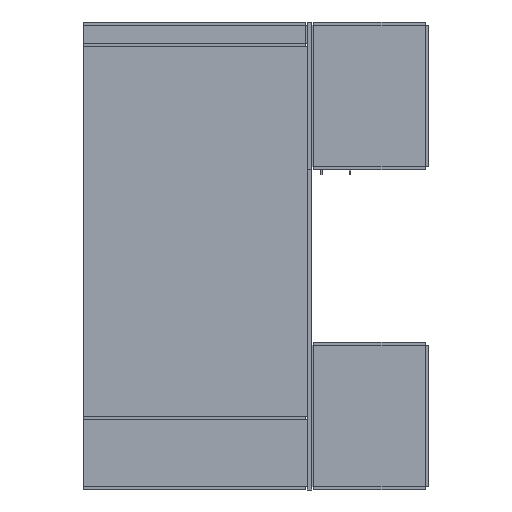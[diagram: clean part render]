
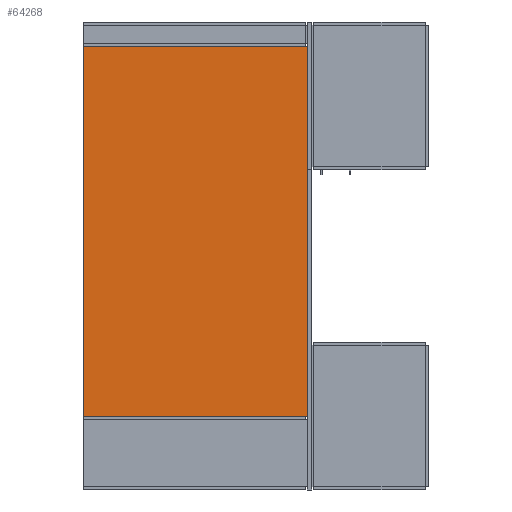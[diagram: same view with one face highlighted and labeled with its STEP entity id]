
A CAD part, left-side view. The second image highlights one B-rep face of the part: STEP entity #64268.
In plain terms, the highlighted planar face has unit normal (-1, 0, 0) as drawn and (0, 0, -1) by its records, which use the part's own axes.
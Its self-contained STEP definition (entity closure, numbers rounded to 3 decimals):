
#4719=FACE_OUTER_BOUND('',#8231,.T.);
#8231=EDGE_LOOP('',(#43865,#43866,#43867,#43868));
#12412=LINE('',#92819,#20023);
#12416=LINE('',#92827,#20027);
#12417=LINE('',#92829,#20028);
#12418=LINE('',#92830,#20029);
#20023=VECTOR('',#74426,0.394);
#20027=VECTOR('',#74432,0.394);
#20028=VECTOR('',#74433,0.394);
#20029=VECTOR('',#74434,0.394);
#27499=VERTEX_POINT('',#92817);
#27500=VERTEX_POINT('',#92818);
#27503=VERTEX_POINT('',#92826);
#27504=VERTEX_POINT('',#92828);
#33894=EDGE_CURVE('',#27499,#27500,#12412,.T.);
#33898=EDGE_CURVE('',#27503,#27499,#12416,.T.);
#33899=EDGE_CURVE('',#27504,#27500,#12417,.T.);
#33900=EDGE_CURVE('',#27503,#27504,#12418,.T.);
#43865=ORIENTED_EDGE('',*,*,#33898,.T.);
#43866=ORIENTED_EDGE('',*,*,#33894,.T.);
#43867=ORIENTED_EDGE('',*,*,#33899,.F.);
#43868=ORIENTED_EDGE('',*,*,#33900,.F.);
#61561=PLANE('',#68363);
#64268=ADVANCED_FACE('',(#4719),#61561,.T.);
#68363=AXIS2_PLACEMENT_3D('',#92825,#74430,#74431);
#74426=DIRECTION('',(1.,0.,0.));
#74430=DIRECTION('center_axis',(0.,0.,-1.));
#74431=DIRECTION('ref_axis',(0.,1.,0.));
#74432=DIRECTION('',(0.,1.,0.));
#74433=DIRECTION('',(0.,1.,0.));
#74434=DIRECTION('',(1.,0.,0.));
#92817=CARTESIAN_POINT('',(0.75,54.5,0.));
#92818=CARTESIAN_POINT('',(90.75,54.5,0.));
#92819=CARTESIAN_POINT('',(68.25,54.5,0.));
#92825=CARTESIAN_POINT('Origin',(0.75,0.,0.));
#92826=CARTESIAN_POINT('',(0.75,0.,0.));
#92827=CARTESIAN_POINT('',(0.75,0.,0.));
#92828=CARTESIAN_POINT('',(90.75,0.,0.));
#92829=CARTESIAN_POINT('',(90.75,0.,0.));
#92830=CARTESIAN_POINT('',(0.75,0.,0.));
